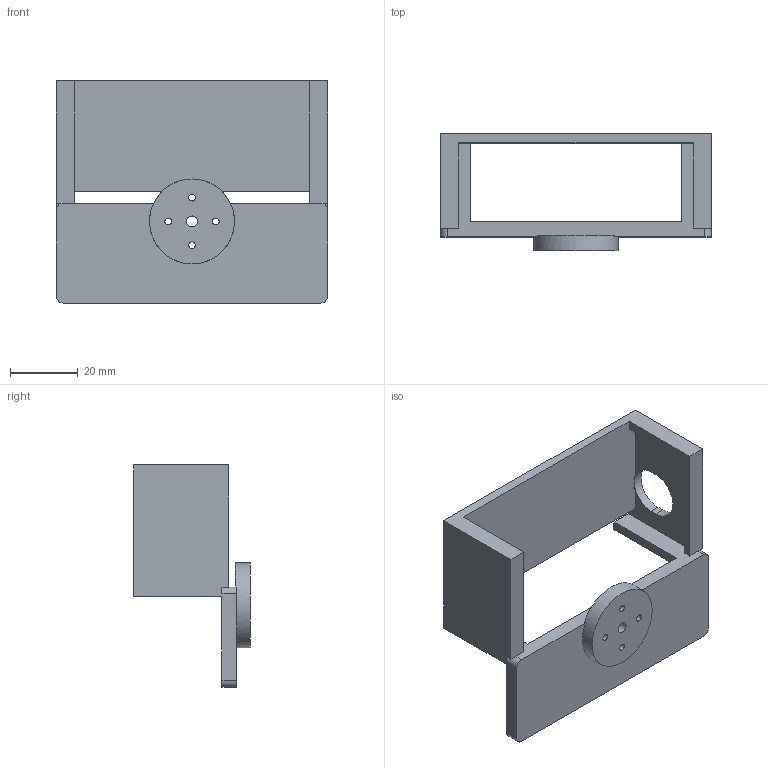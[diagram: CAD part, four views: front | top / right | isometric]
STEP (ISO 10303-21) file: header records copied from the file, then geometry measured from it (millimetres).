
FILE_DESCRIPTION(('Open CASCADE Model'),'2;1');
FILE_NAME('Open CASCADE Shape Model','2026-08-28T13:53:46',('Author'),( 'Open CASCADE'),'Open CASCADE STEP processor 7.8','Open CASCADE 7.8' ,'Unknown');
FILE_SCHEMA(('AUTOMOTIVE_DESIGN { 1 0 10303 214 1 1 1 1 }'));
Length unit declared in the file: millimetre
Products named in the file (1): Open CASCADE STEP translator 7.8 3
Bounding box: 79.71 x 34.4 x 65.31 mm (x, y, z)
Volume: 26044.2 mm3; surface area: 17481.6 mm2
Topology: 1 solids, 1 shells, 45 faces, 136 edges, 90 vertices
Faces by surface type: plane 33, cylinder 12
Full cylindrical faces by diameter (mm): 2 x4, 3.2 x1, 25 x1
Entity records: 3297 total; most frequent: CARTESIAN_POINT 611, DIRECTION 481, LINE 309, VECTOR 309, ORIENTED_EDGE 272, PCURVE 272, DEFINITIONAL_REPRESENTATION 272, EDGE_CURVE 136
